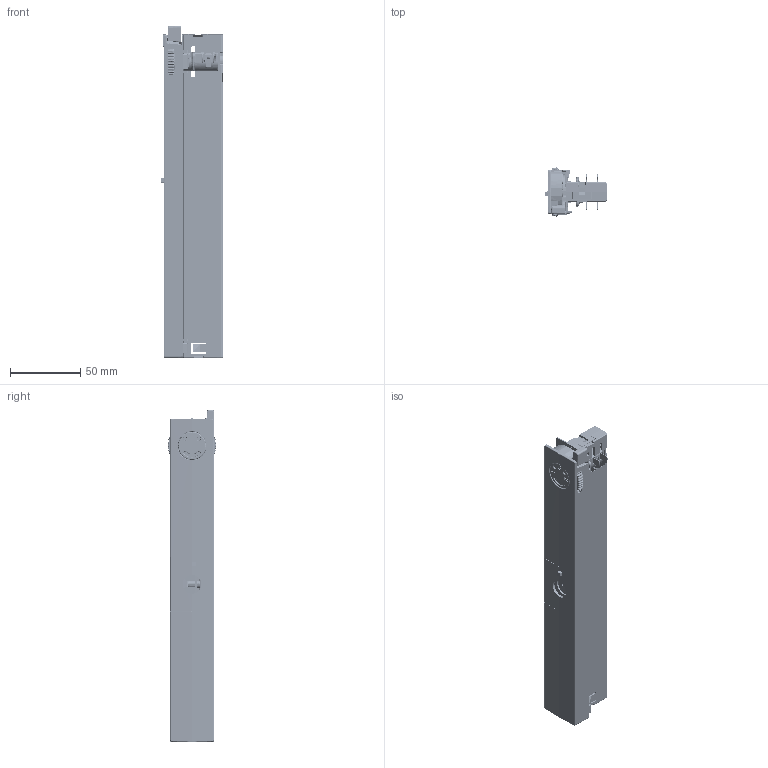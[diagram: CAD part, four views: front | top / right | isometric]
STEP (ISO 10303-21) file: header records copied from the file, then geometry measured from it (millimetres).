
FILE_DESCRIPTION((''),'2;1');
FILE_NAME('15012358_00','2022-10-10T17:06:05',('Elon.Guo'),(''),'CREO PARAMETRIC BY PTC INC, 2021184','CREO PARAMETRIC BY PTC INC, 2021184','');
FILE_SCHEMA(('CONFIG_CONTROL_DESIGN'));
Products named in the file (1): 15012358_00
Bounding box: 44.83 x 34.99 x 236.89 mm (x, y, z)
Volume: 75529.4 mm3; surface area: 106124.2 mm2
Topology: 2 solids, 12 shells, 7000 faces, 19624 edges, 12457 vertices
Faces by surface type: plane 2671, cylinder 2115, bspline 1328, torus 374, cone 287, sphere 201, extrusion 21, revolution 3
Entity records: 392541 total; most frequent: CARTESIAN_POINT 226021, ORIENTED_EDGE 39028, DIRECTION 28702, EDGE_CURVE 19518, VERTEX_POINT 12457, AXIS2_PLACEMENT_3D 9775, VECTOR 9149, LINE 9128
